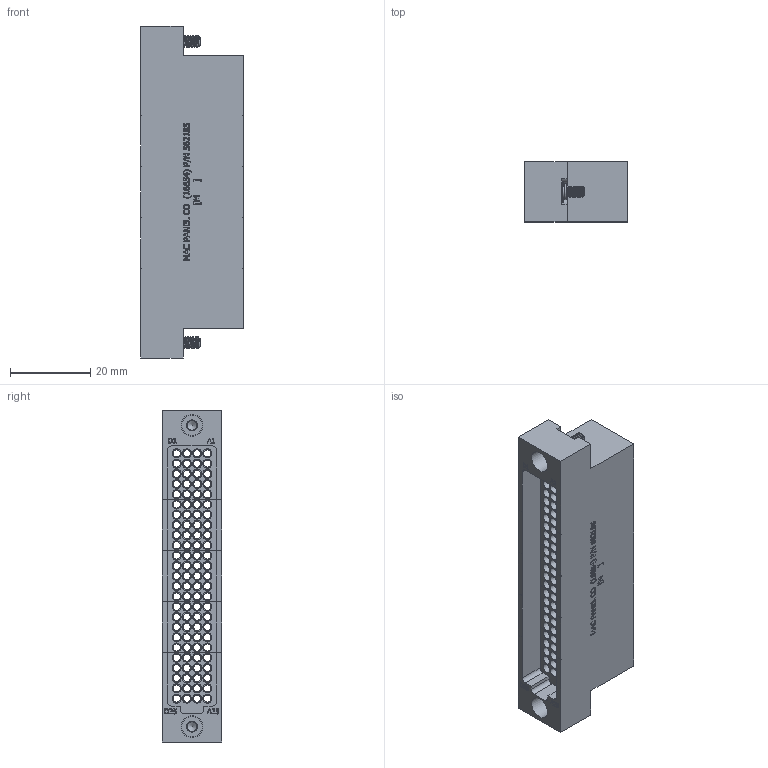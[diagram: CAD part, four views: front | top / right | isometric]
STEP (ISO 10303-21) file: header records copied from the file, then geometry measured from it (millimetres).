
FILE_DESCRIPTION(/* description */ (''),/* implementation_level */ '2;1');
FILE_NAME(/* name */ 'F:\CAD\CAD COMPLETE\web site project\ITA Modules\562185-RevA-STP\562185-CU.stp',/* time_stamp */ '2015-05-21T11:05:00+01:00',/* author */ ('davecooper'),/* organization */ (''),/* preprocessor_version */ 'ST-DEVELOPER v15.2',/* originating_system */ 'Autodesk Inventor 2014',/* authorisation */ '');
FILE_SCHEMA (('AUTOMOTIVE_DESIGN { 1 0 10303 214 3 1 1 }'));
Length unit declared in the file: inch
Products named in the file (1): 562185-CU
Bounding box: 25.6 x 14.86 x 82.55 mm (x, y, z)
Surface area: 20787.6 mm2 (no closed solid volume)
Topology: 0 solids, 5 shells, 1473 faces, 3545 edges, 2360 vertices
Faces by surface type: plane 771, cylinder 356, bspline 338, cone 8
Full cylindrical faces by diameter (mm): 1.778 x100, 2.261 x200, 2.381 x2, 2.845 x12, 3.429 x2, 3.962 x4, 4.064 x2, 5.08 x2, 5.461 x2
Entity records: 45578 total; most frequent: CARTESIAN_POINT 12579, ORIENTED_EDGE 6358, DIRECTION 5419, EDGE_CURVE 3179, VERTEX_POINT 2330, EDGE_LOOP 2263, AXIS2_PLACEMENT_3D 1822, LINE 1775
